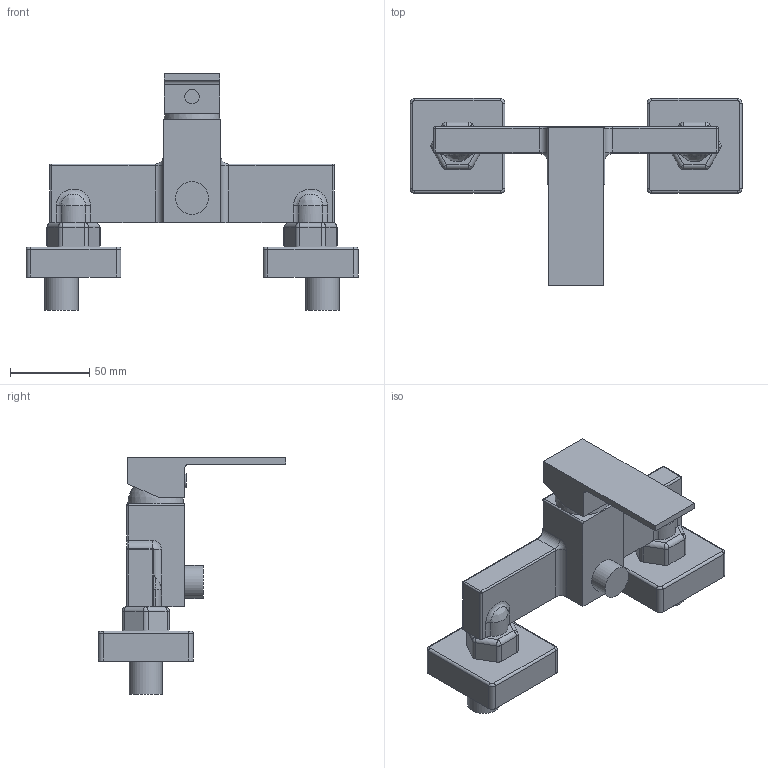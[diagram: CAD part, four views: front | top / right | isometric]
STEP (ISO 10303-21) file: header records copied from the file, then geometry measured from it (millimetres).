
FILE_DESCRIPTION(/* description */ ('CANTO bateria natryskowa CHROM','CAx-IF Rec.Pracs.---Representation and Presentation of Product Manufacturing Information (PMI)---4.0---2014-10-13'),/* implementation_level */ '2;1');
FILE_NAME(/* name */ 'C:\Nextcloud\02_biblioteki_cad\Valvex\Projekt\PROJECTS\ETAP 7\CANTO\2420370\2420370.stp',/* time_stamp */ '2022-12-05T16:45:29+01:00',/* author */ ('Alan Batog'),/* organization */ (''),/* preprocessor_version */ 'ST-DEVELOPER v18.1',/* originating_system */ 'Autodesk Inventor 2022',/* authorisation */ '');
FILE_SCHEMA (('AP242_MANAGED_MODEL_BASED_3D_ENGINEERING_MIM_LF { 1 0 10303 442 1 1 4 }'));
Length unit declared in the file: millimetre
Products named in the file (1): 2420370
Bounding box: 210 x 118.5 x 149.6 mm (x, y, z)
Volume: 419091.2 mm3; surface area: 69760.8 mm2
Topology: 3 solids, 3 shells, 186 faces, 417 edges, 242 vertices
Faces by surface type: cylinder 82, plane 63, sphere 25, bspline 12, torus 4
Full cylindrical faces by diameter (mm): 9 x1, 21 x3
Entity records: 5561 total; most frequent: CARTESIAN_POINT 1178, DIRECTION 960, ORIENTED_EDGE 832, EDGE_CURVE 416, AXIS2_PLACEMENT_3D 366, VERTEX_POINT 242, LINE 228, VECTOR 228
